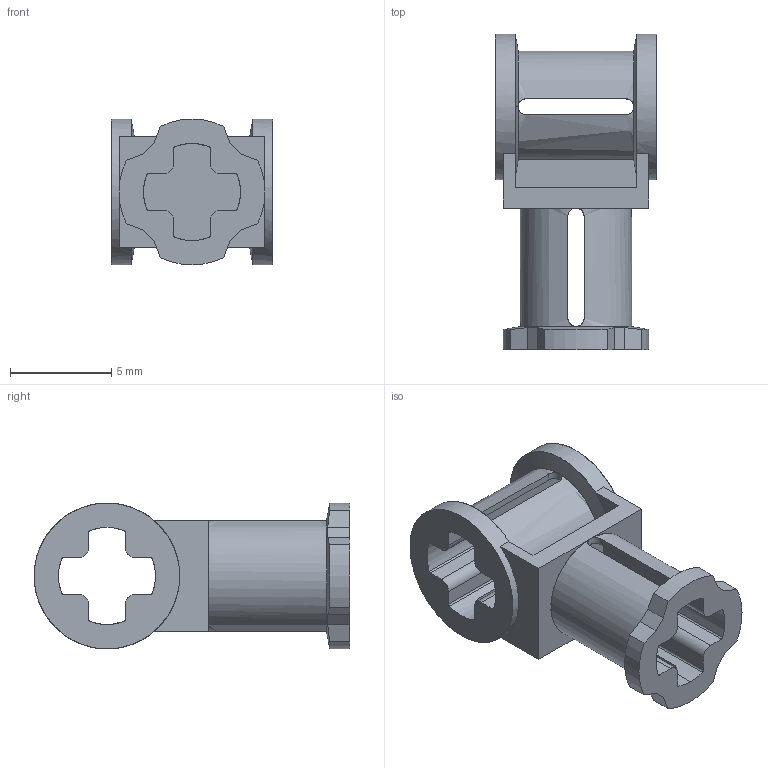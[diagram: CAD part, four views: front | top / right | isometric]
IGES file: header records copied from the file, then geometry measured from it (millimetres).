
Start section: C
Global section: file name: Black_4107081_JCA.iges; native system: By Siemens PLM Incorporated; preprocessor: XPlus GENERIC/IGES 26.1.183; author: Author; organization: Title; date: 20250721.234333; units: millimetre
Bounding box: 8 x 15.6 x 7.2 mm (x, y, z)
Surface area: 722.8 mm2 (no closed solid volume)
Topology: 0 solids, 0 shells, 115 faces, 672 edges, 671 vertices
Faces by surface type: bspline 115
